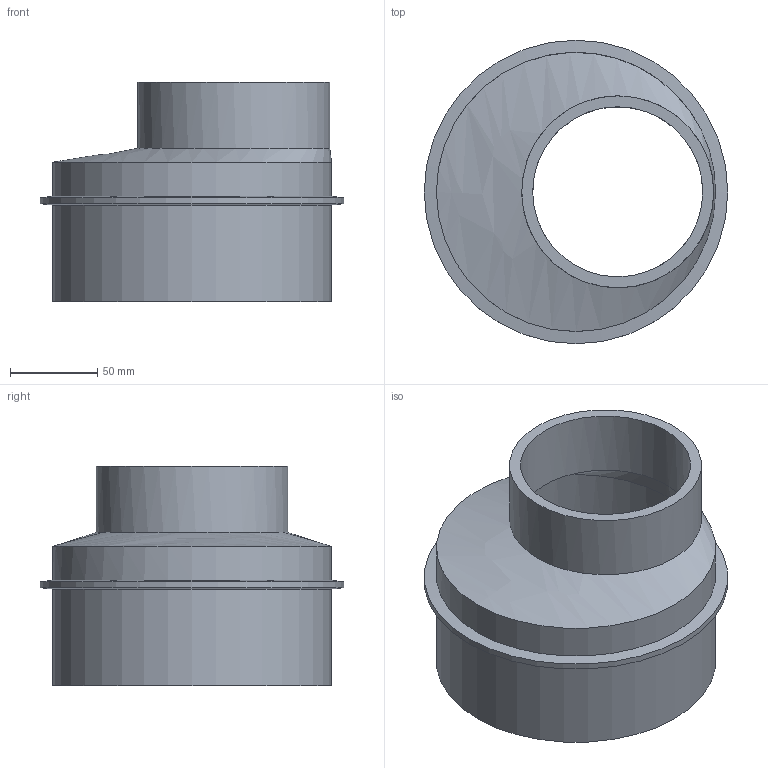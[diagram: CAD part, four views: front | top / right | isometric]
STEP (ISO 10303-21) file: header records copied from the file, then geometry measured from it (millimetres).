
FILE_DESCRIPTION(/* description */ (''),/* implementation_level */ '2;1');
FILE_NAME(/* name */ 'Z:\Geberit\Export\NewStep\Reduktion_Ipart\stp\315100.stp',/* time_stamp */ '2014-04-03T18:14:47+02:00',/* author */ ('nelson'),/* organization */ (''),/* preprocessor_version */ 'ST-DEVELOPER v15.2',/* originating_system */ 'Autodesk Inventor 2014',/* authorisation */ '');
FILE_SCHEMA (('AUTOMOTIVE_DESIGN { 1 0 10303 214 3 1 1 }'));
Length unit declared in the file: millimetre
Products named in the file (1): 315100
Bounding box: 174 x 174 x 126 mm (x, y, z)
Volume: 396747.9 mm3; surface area: 135511.7 mm2
Topology: 1 solids, 1 shells, 12 faces, 32 edges, 22 vertices
Faces by surface type: cylinder 6, cone 2, bspline 2, plane 2
Full cylindrical faces by diameter (mm): 97.5 x1, 110 x1, 145.3 x1, 160 x2, 174 x1
Entity records: 375 total; most frequent: CARTESIAN_POINT 87, DIRECTION 58, ORIENTED_EDGE 40, AXIS2_PLACEMENT_3D 29, EDGE_LOOP 22, EDGE_CURVE 20, CIRCLE 18, VERTEX_POINT 18
